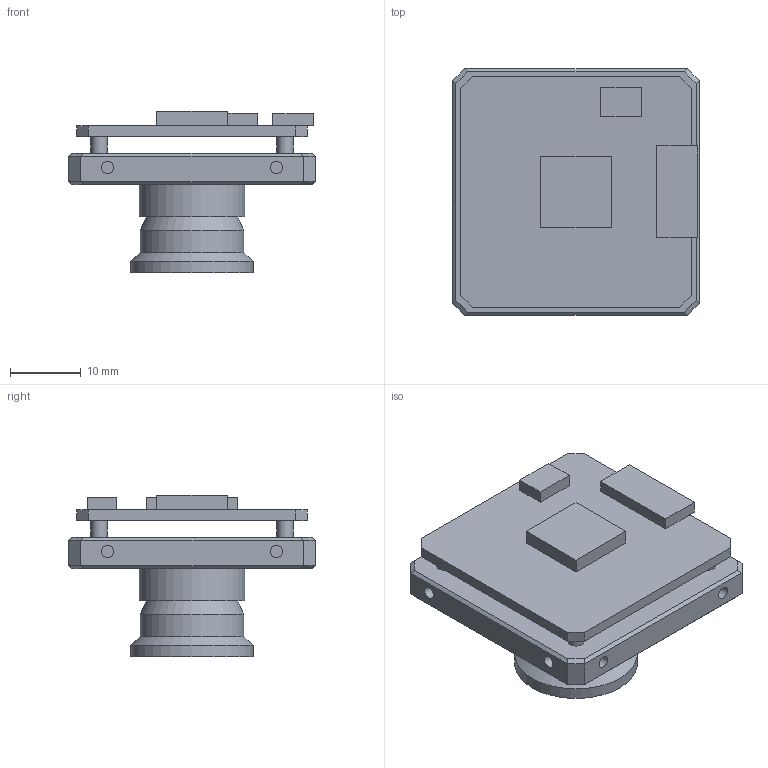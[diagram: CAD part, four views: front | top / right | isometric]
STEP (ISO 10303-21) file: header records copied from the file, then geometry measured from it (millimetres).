
FILE_DESCRIPTION(('Open CASCADE Model'),'2;1');
FILE_NAME('hikrobot-mv-cb060-camera.step','2026-11-14T14:32:00',( 'Author'),('Open CASCADE'),'Open CASCADE STEP processor 8.0', 'Open CASCADE 8.0','Unknown');
FILE_SCHEMA(('AP242_MANAGED_MODEL_BASED_3D_ENGINEERING_MIM_LF {1 0 10303 442 1 1 4 }' ));
Length unit declared in the file: millimetre
Products named in the file (1): Hikrobot MV-CB060 Camera
Bounding box: 35 x 35 x 22.9 mm (x, y, z)
Volume: 8995.4 mm3; surface area: 8805.5 mm2
Topology: 16 solids, 16 shells, 112 faces, 200 edges, 128 vertices
Faces by surface type: plane 84, cylinder 17, bspline 8, cone 2, sphere 1
Full cylindrical faces by diameter (mm): 1.74 x8, 2.3 x4, 12.1 x1, 13.4 x1, 14.7 x1, 15 x1, 17.4 x1
Entity records: 5319 total; most frequent: CARTESIAN_POINT 982, DIRECTION 767, LINE 446, VECTOR 446, ORIENTED_EDGE 398, PCURVE 398, DEFINITIONAL_REPRESENTATION 398, EDGE_CURVE 199
